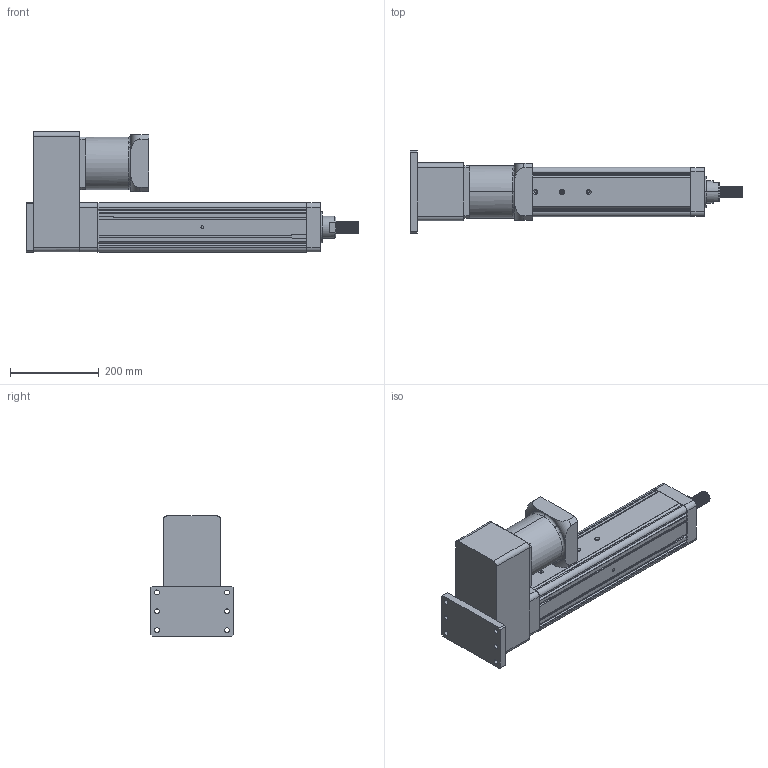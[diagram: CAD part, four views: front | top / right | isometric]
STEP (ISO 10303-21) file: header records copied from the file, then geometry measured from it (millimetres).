
FILE_DESCRIPTION (( 'STEP AP203' ), '1' );
FILE_NAME ('YRJ110-L300-H4K1.STEP', '2020-01-06T02:00:45', ( 'User' ), ( 'China' ), 'SwSTEP 2.0', 'SolidWorks 2016', '' );
FILE_SCHEMA (( 'CONFIG_CONTROL_DESIGN' ));
Length unit declared in the file: millimetre
Products named in the file (8): 095-100俴最倰第; H5-110-1; 萇儂碟-110; H3-110-2; H4-110; 120遺1500W珨撰熬厒儂; K1-110; YRJ110-L300-H4K1
Assembly tree (7 placements, depth 2):
  YRJ110-L300-H4K1
    095-100俴最倰第
    H5-110-1
    萇儂碟-110
    H3-110-2
    H4-110
    120遺1500W珨撰熬厒儂
    K1-110
Bounding box: 747 x 185 x 271 mm (x, y, z)
Volume: 8672463 mm3; surface area: 836092.1 mm2
Topology: 7 solids, 7 shells, 373 faces, 1016 edges, 652 vertices
Faces by surface type: cylinder 168, plane 163, cone 29, bspline 8, torus 5
Entity records: 20627 total; most frequent: CARTESIAN_POINT 10508, ORIENTED_EDGE 2000, DIRECTION 1881, EDGE_CURVE 1000, VERTEX_POINT 652, AXIS2_PLACEMENT_3D 649, VECTOR 583, LINE 583
